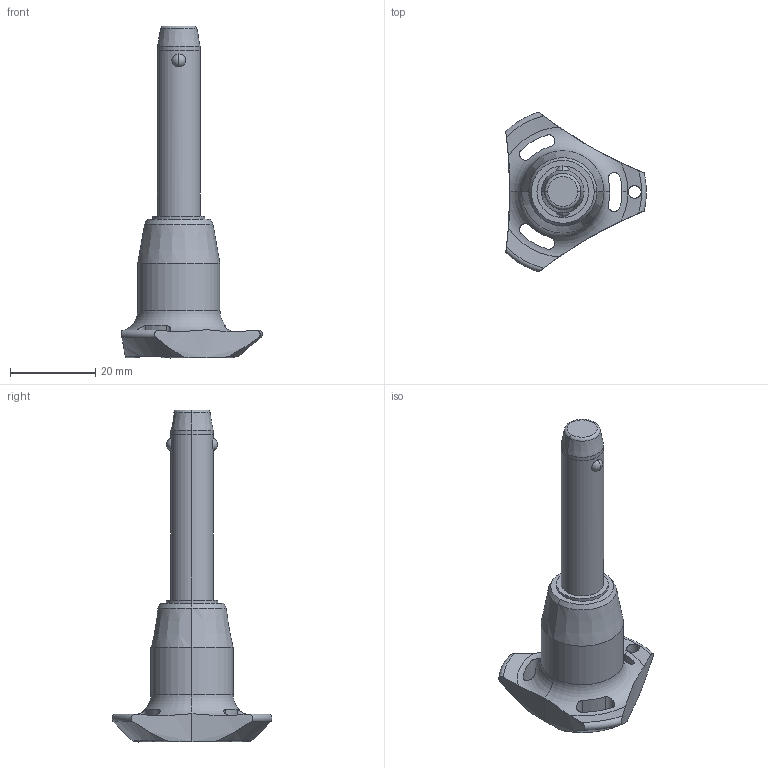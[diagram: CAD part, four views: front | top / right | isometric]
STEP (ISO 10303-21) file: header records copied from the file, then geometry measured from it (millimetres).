
FILE_DESCRIPTION (( 'STEP AP203' ), '1' );
FILE_NAME ('QR1716.M10-035-T.step', '2025-11-13T10:32:23', ( '' ), ( '' ), 'SwSTEP 2.0', 'SolidWorks 2019', '' );
FILE_SCHEMA (( 'CONFIG_CONTROL_DESIGN' ));
Length unit declared in the file: millimetre
Products named in the file (1): QR1716.M10-035-T
Bounding box: 33 x 37.51 x 77.9 mm (x, y, z)
Volume: 13828.5 mm3; surface area: 5264.2 mm2
Topology: 1 solids, 1 shells, 68 faces, 180 edges, 113 vertices
Faces by surface type: cylinder 32, cone 14, torus 11, sphere 6, plane 5
Entity records: 2838 total; most frequent: CARTESIAN_POINT 1098, ORIENTED_EDGE 360, DIRECTION 347, EDGE_CURVE 180, AXIS2_PLACEMENT_3D 154, VERTEX_POINT 113, CIRCLE 85, EDGE_LOOP 75
